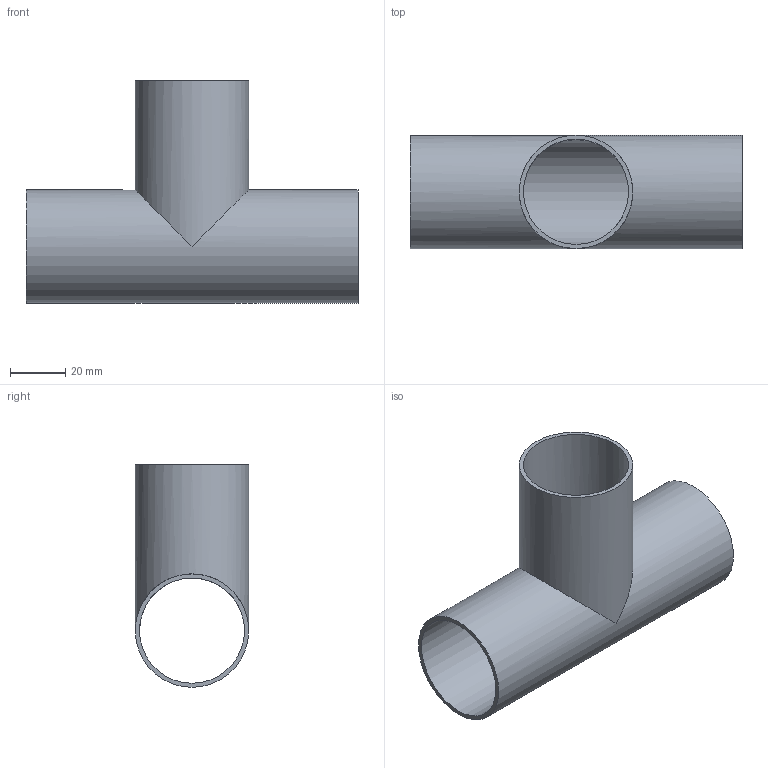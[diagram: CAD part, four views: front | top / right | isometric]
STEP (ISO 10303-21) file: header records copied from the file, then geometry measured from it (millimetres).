
FILE_DESCRIPTION(('FreeCAD Model'),'2;1');
FILE_NAME( '/home/martin/Documents/proyect/accesorios/stp/te_long_DN-40.step', '2018-01-07T08:11:30',('Author'),(''), 'Open CASCADE STEP processor 6.8','FreeCAD','Unknown');
FILE_SCHEMA(('AUTOMOTIVE_DESIGN_CC2 { 1 2 10303 214 -1 1 5 4 }'));
Length unit declared in the file: millimetre
Products named in the file (1): te_long_DN-40
Bounding box: 120 x 41 x 80.5 mm (x, y, z)
Volume: 28822.1 mm3; surface area: 38981.9 mm2
Topology: 1 solids, 1 shells, 7 faces, 16 edges, 12 vertices
Faces by surface type: cylinder 4, plane 3
Full cylindrical faces by diameter (mm): 38 x2, 41 x2
Entity records: 531 total; most frequent: CARTESIAN_POINT 172, DIRECTION 64, ORIENTED_EDGE 32, PCURVE 32, DEFINITIONAL_REPRESENTATION 32, AXIS2_PLACEMENT_3D 20, LINE 18, VECTOR 18
